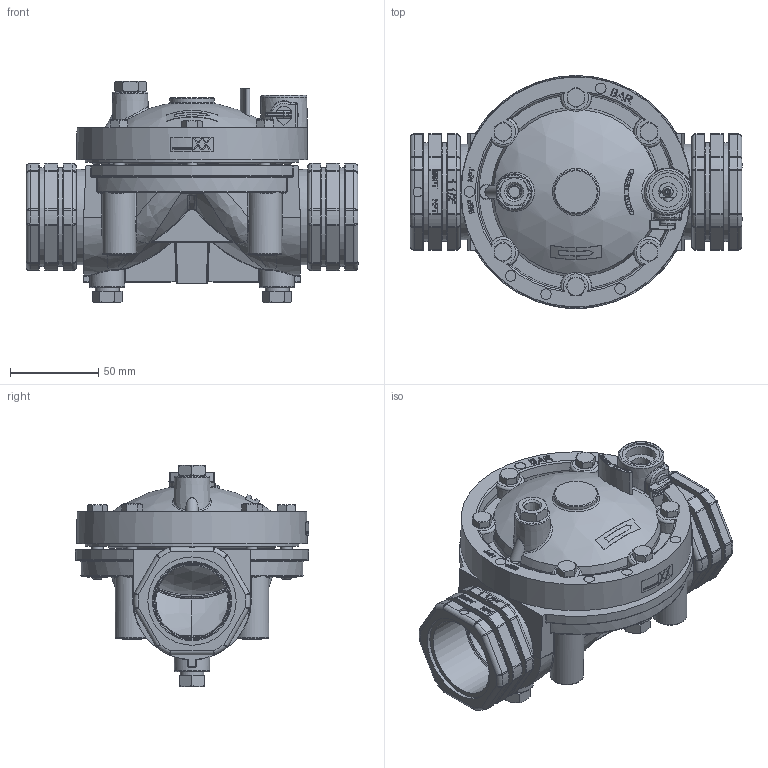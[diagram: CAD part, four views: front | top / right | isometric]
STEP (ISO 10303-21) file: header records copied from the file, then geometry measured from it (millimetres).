
FILE_DESCRIPTION((''),'2;1');
FILE_NAME('Hgal1.5-w2','2011-08-01T15:55:35',('dafnaraz'),(''),'CADlook_v12.0','Cimatron E 9.0','');
FILE_SCHEMA(('AUTOMOTIVE_DESIGN { 1 2 10303 214 0 1 1 1 }'));
Length unit declared in the file: millimetre
Products named in the file (16): Hgal1.5-w2.1; P.C.xx-madb-h; Madb-Kivun; pin; 2007; override561; zamzam_mesh; zamzam_m; 1-4un; 1_4unx72; 1_4unx1_5; bonnet rid-750-ma; diskit; dia 21; 14nptpl; Body-75_1.5-2w
Assembly tree (26 placements, depth 2):
  Hgal1.5-w2.1
    P.C.xx-madb-h
    Madb-Kivun
    pin
    2007  x2
    override561
    zamzam_mesh
    zamzam_m
    1-4un  x6
    1_4unx72  x4
    1_4unx1_5  x2
    bonnet rid-750-ma
    diskit
    dia 21
    14nptpl  x2
    Body-75_1.5-2w
Bounding box: 188 x 132.02 x 125.4 mm (x, y, z)
Volume: 568126.3 mm3; surface area: 222526.5 mm2
Topology: 30 solids, 31 shells, 2786 faces, 8363 edges, 6963 vertices
Faces by surface type: plane 943, bspline 630, cylinder 623, torus 316, cone 215, sphere 59
Full cylindrical faces by diameter (mm): 1.4 x1, 1.9 x1, 2 x4, 2.4 x1, 2.8 x1, 3 x1, 3.8 x1, 4 x5, 4.1 x1, 4.2 x2, 4.25 x1, 4.5 x1, 5.1 x6, 5.4 x1, 5.5 x3, 6 x11, 6.3 x6, 6.8 x12, 7 x9, 7.1 x5, 7.2 x2, 7.6 x1, 8 x1, 9.7 x1, 10 x3, 10.1 x6, 10.5 x1, 10.6 x1, 11 x2, 11.5 x3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
Entity records: 148134 total; most frequent: CARTESIAN_POINT 60150, ORIENTED_EDGE 12386, DIRECTION 11811, EDGE_CURVE 6193, AXIS2_PLACEMENT_3D 4357, VERTEX_POINT 4012, COLOUR_RGB 3815, PRESENTATION_STYLE_ASSIGNMENT 3815
